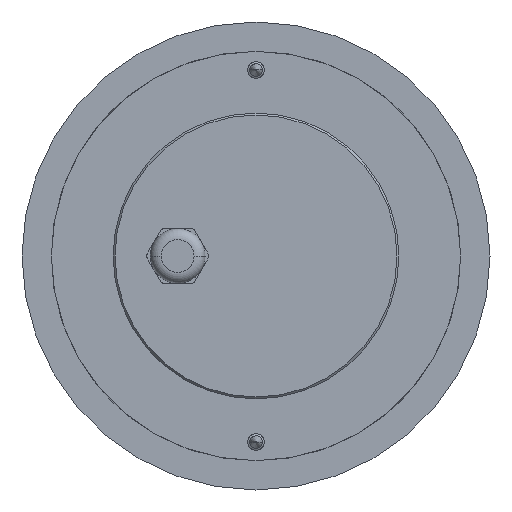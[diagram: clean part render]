
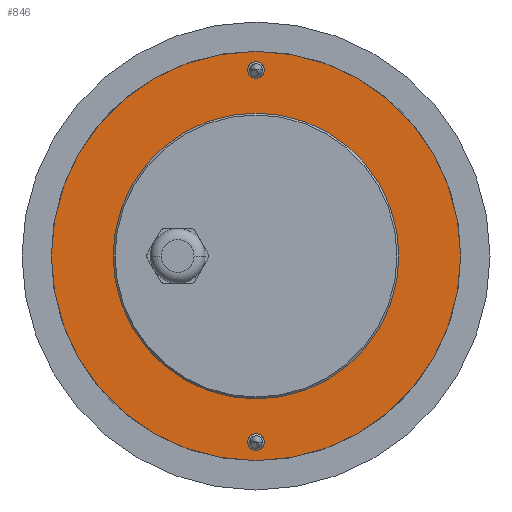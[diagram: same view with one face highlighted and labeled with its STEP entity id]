
A CAD part, front view. The second image highlights one B-rep face of the part: STEP entity #846.
In plain terms, the highlighted planar face has unit normal (0, -1, 0).
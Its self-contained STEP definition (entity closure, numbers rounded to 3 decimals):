
#216=CARTESIAN_POINT('',(0.,0.,0.));
#217=DIRECTION('',(0.,1.,0.));
#218=DIRECTION('',(-1.,0.,0.));
#219=AXIS2_PLACEMENT_3D('',#216,#217,#218);
#293=CARTESIAN_POINT('',(0.,0.,0.));
#294=DIRECTION('',(0.,-1.,0.));
#295=DIRECTION('',(-1.,0.,0.));
#296=AXIS2_PLACEMENT_3D('',#293,#294,#295);
#477=CARTESIAN_POINT('',(-52.25,0.,0.));
#479=VERTEX_POINT('',#477);
#481=CARTESIAN_POINT('',(52.25,0.,0.));
#483=VERTEX_POINT('',#481);
#835=CARTESIAN_POINT('',(0.,0.,0.));
#836=DIRECTION('',(0.,1.,0.));
#837=DIRECTION('',(-1.,0.,0.));
#838=AXIS2_PLACEMENT_3D('',#835,#836,#837);
#839=PLANE('',#838);
#841=ORIENTED_EDGE('',*,*,#840,.T.);
#843=ORIENTED_EDGE('',*,*,#842,.F.);
#844=EDGE_LOOP('',(#841,#843));
#845=FACE_OUTER_BOUND('',#844,.F.);
#846=ADVANCED_FACE('',(#845),#839,.F.);
#220=CIRCLE('',#219,52.25);
#297=CIRCLE('',#296,52.25);
#840=EDGE_CURVE('',#479,#483,#220,.T.);
#842=EDGE_CURVE('',#479,#483,#297,.T.);
